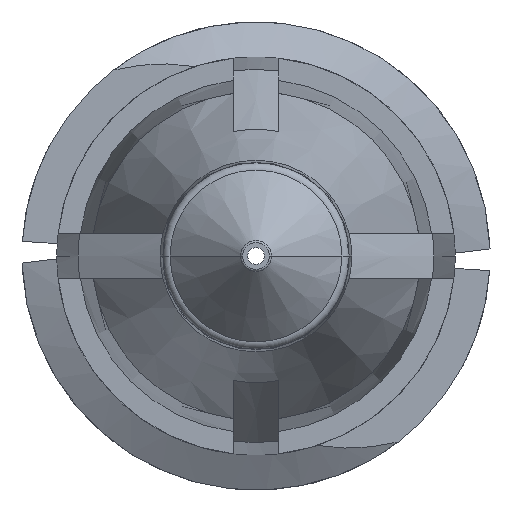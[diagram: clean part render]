
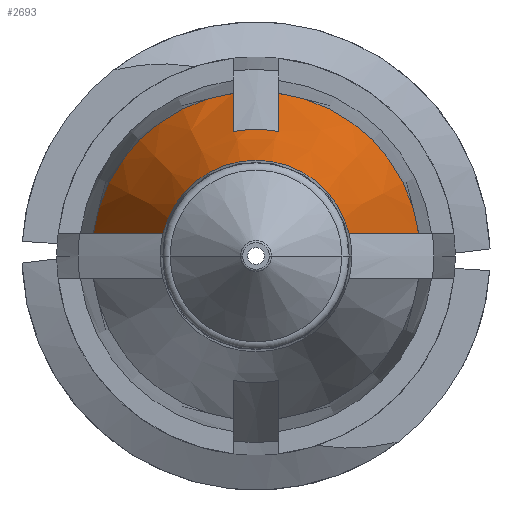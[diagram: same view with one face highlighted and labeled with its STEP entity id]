
A CAD part, front view. The second image highlights one B-rep face of the part: STEP entity #2693.
In plain terms, the highlighted conical face has half-angle 20 degrees and reference radius 2.745 mm.
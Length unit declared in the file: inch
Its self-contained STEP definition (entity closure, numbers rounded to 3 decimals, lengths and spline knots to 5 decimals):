
#27 = CARTESIAN_POINT ( 'NONE',  ( -0.015, -0.47395, 0.08198 ) ) ;
#92 = B_SPLINE_CURVE_WITH_KNOTS ( 'NONE', 3,
 ( #2882, #1965, #1748, #3062 ),
 .UNSPECIFIED., .F., .F.,
 ( 4, 4 ),
 ( 0.00247, 0.00431 ),
 .UNSPECIFIED. ) ;
#144 = DIRECTION ( 'NONE',  ( 0., 1., 0. ) ) ;
#164 = CARTESIAN_POINT ( 'NONE',  ( -0.10703, -0.406, 0.015 ) ) ;
#219 = ORIENTED_EDGE ( 'NONE', *, *, #2733, .T. ) ;
#247 = ORIENTED_EDGE ( 'NONE', *, *, #264, .F. ) ;
#264 = EDGE_CURVE ( 'NONE', #949, #2609, #1812, .T. ) ;
#361 = CONICAL_SURFACE ( 'NONE', #997, 0.10808, 0.349 ) ;
#452 = CARTESIAN_POINT ( 'NONE',  ( 0., -0.52985, 0. ) ) ;
#466 = EDGE_CURVE ( 'NONE', #529, #537, #1642, .T. ) ;
#529 = VERTEX_POINT ( 'NONE', #1625 ) ;
#537 = VERTEX_POINT ( 'NONE', #27 ) ;
#572 = ORIENTED_EDGE ( 'NONE', *, *, #3168, .F. ) ;
#622 = CARTESIAN_POINT ( 'NONE',  ( 0.10703, -0.406, 0.015 ) ) ;
#629 = ORIENTED_EDGE ( 'NONE', *, *, #3315, .T. ) ;
#701 = CARTESIAN_POINT ( 'NONE',  ( -0.09185, -0.44732, 0.015 ) ) ;
#734 = CARTESIAN_POINT ( 'NONE',  ( 0., -0.47395, 0. ) ) ;
#791 = CARTESIAN_POINT ( 'NONE',  ( 0., -0.406, 0. ) ) ;
#920 = CARTESIAN_POINT ( 'NONE',  ( -0.06119, -0.52985, 0.015 ) ) ;
#936 = CARTESIAN_POINT ( 'NONE',  ( -0.06119, -0.52985, 0.015 ) ) ;
#949 = VERTEX_POINT ( 'NONE', #3368 ) ;
#954 = CARTESIAN_POINT ( 'NONE',  ( 0.10703, -0.406, 0.015 ) ) ;
#979 = ORIENTED_EDGE ( 'NONE', *, *, #1326, .F. ) ;
#997 = AXIS2_PLACEMENT_3D ( 'NONE', #791, #2095, #2117 ) ;
#1068 = AXIS2_PLACEMENT_3D ( 'NONE', #734, #3367, #2593 ) ;
#1186 = B_SPLINE_CURVE_WITH_KNOTS ( 'NONE', 3,
 ( #936, #3313, #701, #164 ),
 .UNSPECIFIED., .F., .F.,
 ( 4, 4 ),
 ( 0.00282, 0.00617 ),
 .UNSPECIFIED. ) ;
#1326 = EDGE_CURVE ( 'NONE', #2854, #949, #92, .T. ) ;
#1368 = VERTEX_POINT ( 'NONE', #1837 ) ;
#1535 = CARTESIAN_POINT ( 'NONE',  ( -0.015, -0.42866, 0.0987 ) ) ;
#1614 = CARTESIAN_POINT ( 'NONE',  ( 0.015, -0.47395, 0.08198 ) ) ;
#1625 = CARTESIAN_POINT ( 'NONE',  ( -0.015, -0.406, 0.10703 ) ) ;
#1642 = B_SPLINE_CURVE_WITH_KNOTS ( 'NONE', 3,
 ( #3396, #1535, #2866, #3130 ),
 .UNSPECIFIED., .F., .F.,
 ( 4, 4 ),
 ( 0.00343, 0.00527 ),
 .UNSPECIFIED. ) ;
#1704 = ORIENTED_EDGE ( 'NONE', *, *, #2170, .F. ) ;
#1748 = CARTESIAN_POINT ( 'NONE',  ( 0.015, -0.42866, 0.0987 ) ) ;
#1812 = CIRCLE ( 'NONE', #3300, 0.10808 ) ;
#1824 = EDGE_LOOP ( 'NONE', ( #3257, #219, #629, #247, #979, #572, #3021, #1704 ) ) ;
#1833 = DIRECTION ( 'NONE',  ( -1., 0., 0. ) ) ;
#1837 = CARTESIAN_POINT ( 'NONE',  ( 0.06119, -0.52985, 0.015 ) ) ;
#1850 = CARTESIAN_POINT ( 'NONE',  ( 0., -0.406, 0. ) ) ;
#1964 = CARTESIAN_POINT ( 'NONE',  ( 0.09185, -0.44732, 0.015 ) ) ;
#1965 = CARTESIAN_POINT ( 'NONE',  ( 0.015, -0.45131, 0.09036 ) ) ;
#2095 = DIRECTION ( 'NONE',  ( 0., 1., 0. ) ) ;
#2117 = DIRECTION ( 'NONE',  ( -1., 0., 0. ) ) ;
#2170 = EDGE_CURVE ( 'NONE', #2221, #529, #2332, .T. ) ;
#2221 = VERTEX_POINT ( 'NONE', #3148 ) ;
#2290 = DIRECTION ( 'NONE',  ( 0., 1., 0. ) ) ;
#2332 = CIRCLE ( 'NONE', #2394, 0.10808 ) ;
#2335 = DIRECTION ( 'NONE',  ( 0., 1., 0. ) ) ;
#2394 = AXIS2_PLACEMENT_3D ( 'NONE', #1850, #2335, #2863 ) ;
#2417 = CIRCLE ( 'NONE', #3177, 0.063 ) ;
#2574 = VERTEX_POINT ( 'NONE', #920 ) ;
#2593 = DIRECTION ( 'NONE',  ( 1., 0., 0. ) ) ;
#2609 = VERTEX_POINT ( 'NONE', #954 ) ;
#2634 = CARTESIAN_POINT ( 'NONE',  ( 0.07664, -0.48863, 0.015 ) ) ;
#2693 = ADVANCED_FACE ( 'NONE', ( #3187 ), #361, .T. ) ;
#2733 = EDGE_CURVE ( 'NONE', #2574, #1368, #2417, .T. ) ;
#2734 = CARTESIAN_POINT ( 'NONE',  ( 0., -0.406, 0. ) ) ;
#2782 = B_SPLINE_CURVE_WITH_KNOTS ( 'NONE', 3,
 ( #3185, #2634, #1964, #622 ),
 .UNSPECIFIED., .F., .F.,
 ( 4, 4 ),
 ( 0.00282, 0.00617 ),
 .UNSPECIFIED. ) ;
#2784 = CIRCLE ( 'NONE', #1068, 0.08335 ) ;
#2854 = VERTEX_POINT ( 'NONE', #1614 ) ;
#2863 = DIRECTION ( 'NONE',  ( -1., 0., 0. ) ) ;
#2866 = CARTESIAN_POINT ( 'NONE',  ( -0.015, -0.45131, 0.09036 ) ) ;
#2882 = CARTESIAN_POINT ( 'NONE',  ( 0.015, -0.47395, 0.08198 ) ) ;
#3001 = EDGE_CURVE ( 'NONE', #2574, #2221, #1186, .T. ) ;
#3021 = ORIENTED_EDGE ( 'NONE', *, *, #466, .F. ) ;
#3062 = CARTESIAN_POINT ( 'NONE',  ( 0.015, -0.406, 0.10703 ) ) ;
#3130 = CARTESIAN_POINT ( 'NONE',  ( -0.015, -0.47395, 0.08198 ) ) ;
#3148 = CARTESIAN_POINT ( 'NONE',  ( -0.10703, -0.406, 0.015 ) ) ;
#3168 = EDGE_CURVE ( 'NONE', #537, #2854, #2784, .T. ) ;
#3177 = AXIS2_PLACEMENT_3D ( 'NONE', #452, #2290, #1833 ) ;
#3185 = CARTESIAN_POINT ( 'NONE',  ( 0.06119, -0.52985, 0.015 ) ) ;
#3187 = FACE_OUTER_BOUND ( 'NONE', #1824, .T. ) ;
#3240 = DIRECTION ( 'NONE',  ( -1., 0., 0. ) ) ;
#3257 = ORIENTED_EDGE ( 'NONE', *, *, #3001, .F. ) ;
#3300 = AXIS2_PLACEMENT_3D ( 'NONE', #2734, #144, #3240 ) ;
#3313 = CARTESIAN_POINT ( 'NONE',  ( -0.07664, -0.48863, 0.015 ) ) ;
#3315 = EDGE_CURVE ( 'NONE', #1368, #2609, #2782, .T. ) ;
#3367 = DIRECTION ( 'NONE',  ( 0., 1., 0. ) ) ;
#3368 = CARTESIAN_POINT ( 'NONE',  ( 0.015, -0.406, 0.10703 ) ) ;
#3396 = CARTESIAN_POINT ( 'NONE',  ( -0.015, -0.406, 0.10703 ) ) ;
